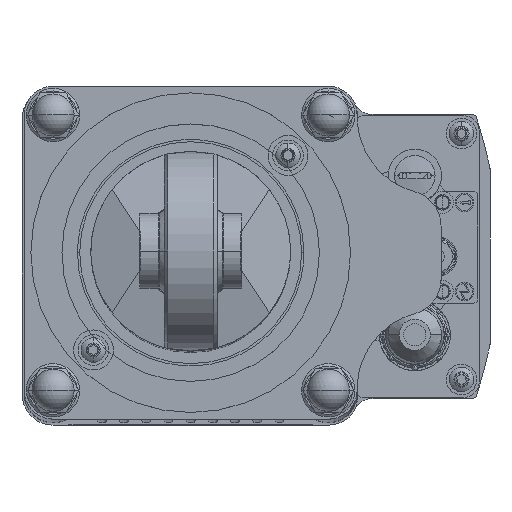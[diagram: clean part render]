
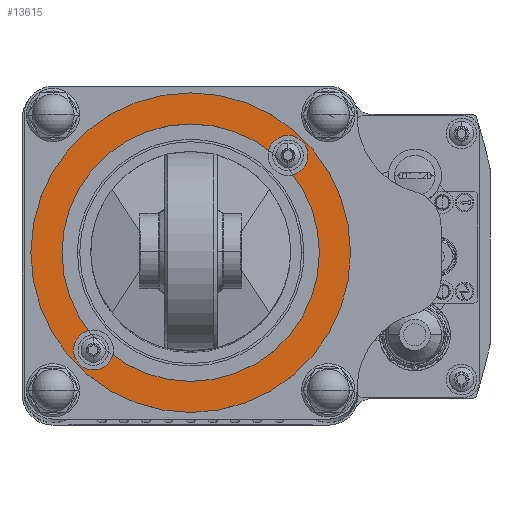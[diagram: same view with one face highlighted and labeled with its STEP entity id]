
A CAD part, top view. The second image highlights one B-rep face of the part: STEP entity #13615.
In plain terms, the highlighted planar face has unit normal (0, 0, 1).
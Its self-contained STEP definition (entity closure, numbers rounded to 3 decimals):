
#1010 = FACE_BOUND ( 'NONE', #22106, .T. ) ;
#5174 = DIRECTION ( 'NONE',  ( 1., 0., 0. ) ) ;
#9075 = AXIS2_PLACEMENT_3D ( 'NONE', #93226, #147849, #25164 ) ;
#13615 = ADVANCED_FACE ( 'NONE', ( #1010, #55658, #110258, #59195 ), #71797, .T. ) ;
#16862 = DIRECTION ( 'NONE',  ( 0., 0., 1. ) ) ;
#17077 = DIRECTION ( 'NONE',  ( 1., 0., 0. ) ) ;
#18077 = CARTESIAN_POINT ( 'NONE',  ( 36., 0., 492.9 ) ) ;
#19252 = CIRCLE ( 'NONE', #119406, 1.25 ) ;
#22106 = EDGE_LOOP ( 'NONE', ( #89611, #165545 ) ) ;
#23808 = EDGE_LOOP ( 'NONE', ( #37814, #167659 ) ) ;
#25164 = DIRECTION ( 'NONE',  ( 1., 0., 0. ) ) ;
#29790 = VERTEX_POINT ( 'NONE', #113307 ) ;
#31180 = EDGE_CURVE ( 'NONE', #45656, #50600, #175433, .T. ) ;
#34058 = AXIS2_PLACEMENT_3D ( 'NONE', #138695, #16862, #5174 ) ;
#37814 = ORIENTED_EDGE ( 'NONE', *, *, #117045, .T. ) ;
#38469 = EDGE_LOOP ( 'NONE', ( #44481, #56369 ) ) ;
#39184 = DIRECTION ( 'NONE',  ( 1., 0., 0. ) ) ;
#41999 = CARTESIAN_POINT ( 'NONE',  ( -20.67, -21.92, 492.9 ) ) ;
#44481 = ORIENTED_EDGE ( 'NONE', *, *, #94186, .F. ) ;
#45656 = VERTEX_POINT ( 'NONE', #59281 ) ;
#48351 = DIRECTION ( 'NONE',  ( 1., 0., 0. ) ) ;
#50421 = AXIS2_PLACEMENT_3D ( 'NONE', #85167, #70879, #17077 ) ;
#50600 = VERTEX_POINT ( 'NONE', #131142 ) ;
#50898 = CARTESIAN_POINT ( 'NONE',  ( -23.17, -21.92, 492.9 ) ) ;
#51151 = EDGE_CURVE ( 'NONE', #50600, #45656, #106213, .T. ) ;
#51306 = DIRECTION ( 'NONE',  ( 0., 0., 1. ) ) ;
#52629 = DIRECTION ( 'NONE',  ( 0., 0., 1. ) ) ;
#54335 = ORIENTED_EDGE ( 'NONE', *, *, #51151, .F. ) ;
#55658 = FACE_BOUND ( 'NONE', #38469, .T. ) ;
#56369 = ORIENTED_EDGE ( 'NONE', *, *, #166153, .F. ) ;
#59195 = FACE_BOUND ( 'NONE', #75969, .T. ) ;
#59281 = CARTESIAN_POINT ( 'NONE',  ( -29., 0., 492.9 ) ) ;
#60026 = CARTESIAN_POINT ( 'NONE',  ( -36., 0., 492.9 ) ) ;
#61025 = AXIS2_PLACEMENT_3D ( 'NONE', #158567, #171017, #48351 ) ;
#68374 = CIRCLE ( 'NONE', #34058, 1.25 ) ;
#70879 = DIRECTION ( 'NONE',  ( 0., 0., 1. ) ) ;
#71797 = PLANE ( 'NONE',  #154374 ) ;
#73566 = DIRECTION ( 'NONE',  ( 1., 0., 0. ) ) ;
#75969 = EDGE_LOOP ( 'NONE', ( #166241, #54335 ) ) ;
#79129 = DIRECTION ( 'NONE',  ( 1., 0., 0. ) ) ;
#80434 = CARTESIAN_POINT ( 'NONE',  ( 21.92, 21.92, 492.9 ) ) ;
#80728 = VERTEX_POINT ( 'NONE', #41999 ) ;
#85167 = CARTESIAN_POINT ( 'NONE',  ( -21.92, -21.92, 492.9 ) ) ;
#89159 = DIRECTION ( 'NONE',  ( 0., 0., 1. ) ) ;
#89611 = ORIENTED_EDGE ( 'NONE', *, *, #107719, .F. ) ;
#90098 = CIRCLE ( 'NONE', #118703, 1.25 ) ;
#93226 = CARTESIAN_POINT ( 'NONE',  ( 0., 0., 492.9 ) ) ;
#94186 = EDGE_CURVE ( 'NONE', #80728, #128670, #104718, .T. ) ;
#98188 = AXIS2_PLACEMENT_3D ( 'NONE', #147127, #51306, #79129 ) ;
#98708 = DIRECTION ( 'NONE',  ( 0., 0., 1. ) ) ;
#101221 = CARTESIAN_POINT ( 'NONE',  ( 0., 0., 492.9 ) ) ;
#104718 = CIRCLE ( 'NONE', #50421, 1.25 ) ;
#106213 = CIRCLE ( 'NONE', #9075, 29. ) ;
#107719 = EDGE_CURVE ( 'NONE', #146385, #29790, #19252, .T. ) ;
#110258 = FACE_OUTER_BOUND ( 'NONE', #23808, .T. ) ;
#113307 = CARTESIAN_POINT ( 'NONE',  ( 20.67, 21.92, 492.9 ) ) ;
#113500 = CIRCLE ( 'NONE', #139404, 36. ) ;
#114686 = DIRECTION ( 'NONE',  ( 0., 0., 1. ) ) ;
#117045 = EDGE_CURVE ( 'NONE', #175498, #167915, #169703, .T. ) ;
#118703 = AXIS2_PLACEMENT_3D ( 'NONE', #129431, #89159, #143728 ) ;
#119406 = AXIS2_PLACEMENT_3D ( 'NONE', #80434, #52629, #39184 ) ;
#128670 = VERTEX_POINT ( 'NONE', #50898 ) ;
#129431 = CARTESIAN_POINT ( 'NONE',  ( -21.92, -21.92, 492.9 ) ) ;
#131142 = CARTESIAN_POINT ( 'NONE',  ( 29., 0., 492.9 ) ) ;
#135516 = EDGE_CURVE ( 'NONE', #29790, #146385, #68374, .T. ) ;
#138695 = CARTESIAN_POINT ( 'NONE',  ( 21.92, 21.92, 492.9 ) ) ;
#139404 = AXIS2_PLACEMENT_3D ( 'NONE', #168564, #98708, #141705 ) ;
#141705 = DIRECTION ( 'NONE',  ( 1., 0., 0. ) ) ;
#143131 = EDGE_CURVE ( 'NONE', #167915, #175498, #113500, .T. ) ;
#143728 = DIRECTION ( 'NONE',  ( 1., 0., 0. ) ) ;
#144076 = CARTESIAN_POINT ( 'NONE',  ( 23.17, 21.92, 492.9 ) ) ;
#146385 = VERTEX_POINT ( 'NONE', #144076 ) ;
#147127 = CARTESIAN_POINT ( 'NONE',  ( 0., 0., 492.9 ) ) ;
#147849 = DIRECTION ( 'NONE',  ( 0., 0., 1. ) ) ;
#154374 = AXIS2_PLACEMENT_3D ( 'NONE', #101221, #114686, #73566 ) ;
#158567 = CARTESIAN_POINT ( 'NONE',  ( 0., 0., 492.9 ) ) ;
#165545 = ORIENTED_EDGE ( 'NONE', *, *, #135516, .F. ) ;
#166153 = EDGE_CURVE ( 'NONE', #128670, #80728, #90098, .T. ) ;
#166241 = ORIENTED_EDGE ( 'NONE', *, *, #31180, .F. ) ;
#167659 = ORIENTED_EDGE ( 'NONE', *, *, #143131, .T. ) ;
#167915 = VERTEX_POINT ( 'NONE', #18077 ) ;
#168564 = CARTESIAN_POINT ( 'NONE',  ( 0., 0., 492.9 ) ) ;
#169703 = CIRCLE ( 'NONE', #61025, 36. ) ;
#171017 = DIRECTION ( 'NONE',  ( 0., 0., 1. ) ) ;
#175433 = CIRCLE ( 'NONE', #98188, 29. ) ;
#175498 = VERTEX_POINT ( 'NONE', #60026 ) ;
